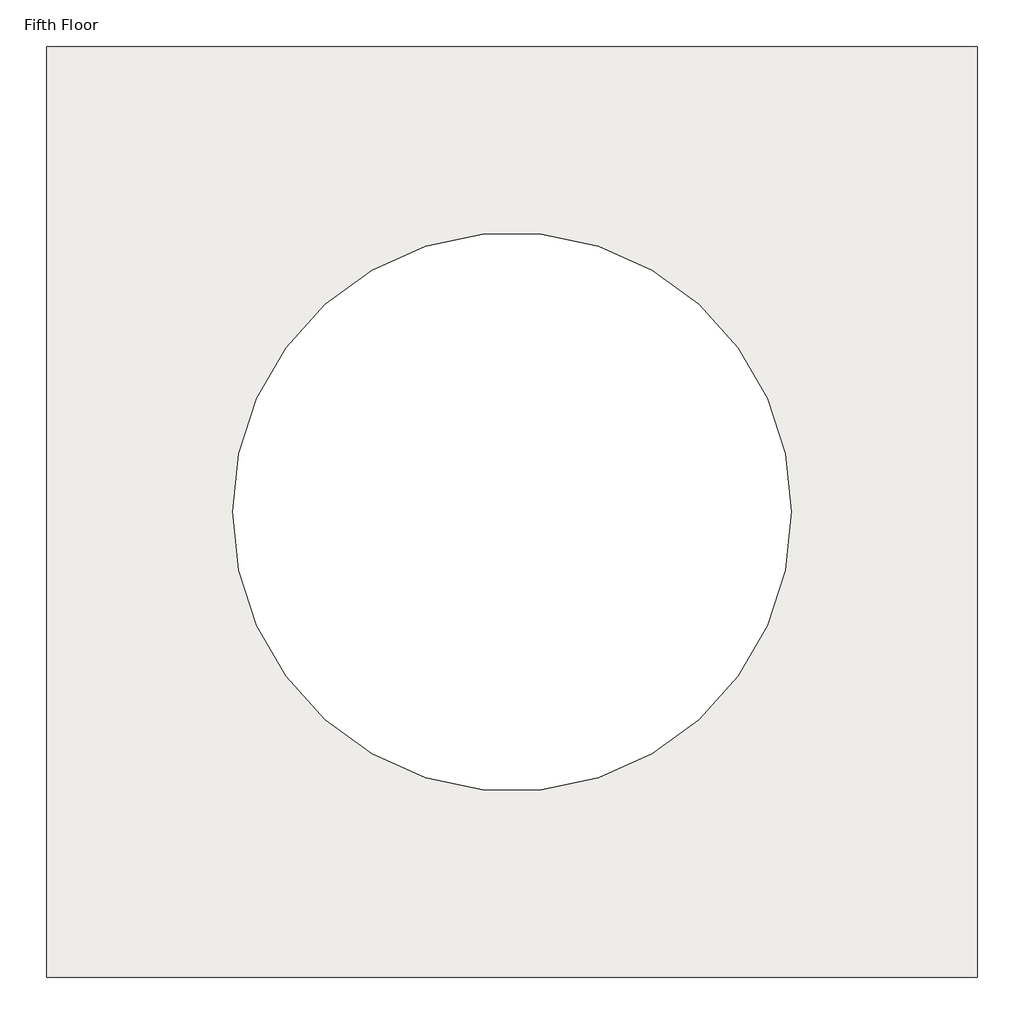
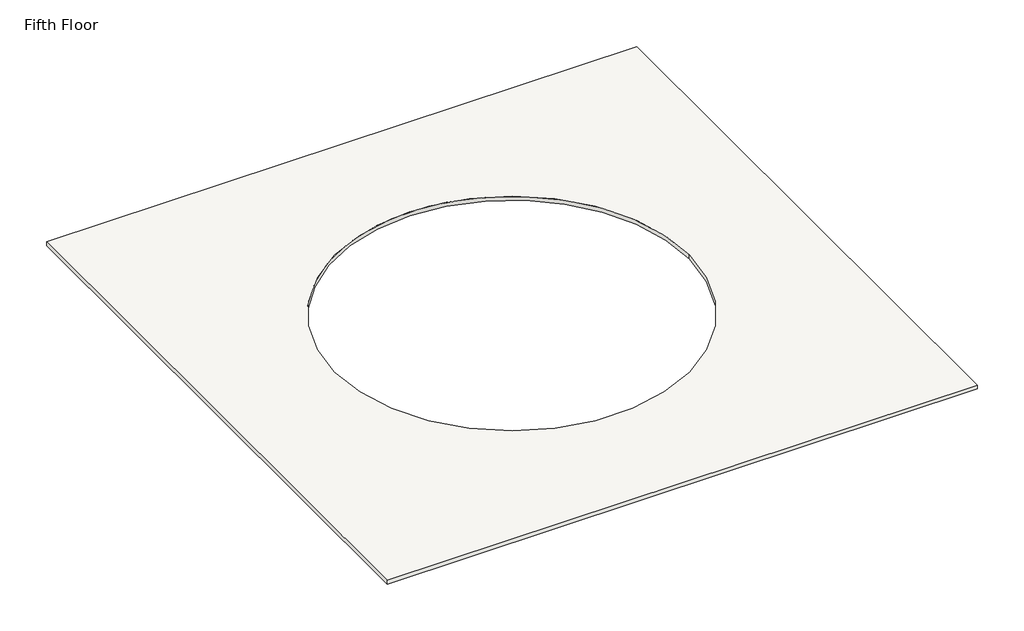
# One storey: 2 slabs.
"""IFC4 building model written with IfcOpenShell, lengths in millimetres."""

import ifcopenshell
import ifcopenshell.guid

model = None  # the IFC model being written
_history = None  # IfcOwnerHistory: only IFC2X3 demands one
_inside = {}  # id of a spatial element -> (the spatial element, [elements in it])
_under = {}  # id of a project, library or spatial element -> (it, [spatial elements below it])
_declared = {}  # id of a project -> (the project, [libraries it declares])
_typed = {}  # id of a type object -> (the type object, [elements of that type])
_made_of = {}  # id of a material, layer set ... -> (it, [elements and type objects made of it])


def new_model(schema):
    """Start an empty IFC model of exactly this schema.

    Asked for "IFC4X3", IfcOpenShell would pick the latest addendum, in which some entities
    have other attributes; the version numbers below select the first issue.
    IFC2X3 requires an IfcOwnerHistory on every rooted entity: one is made here for all.
    """
    global model, _history
    if schema == "IFC4X3":
        model = ifcopenshell.file(schema_version=(4, 3, 0, 0))
    else:
        model = ifcopenshell.file(schema=schema)
    _inside.clear()
    _under.clear()
    _declared.clear()
    _typed.clear()
    _made_of.clear()
    _history = None
    if model.schema == "IFC2X3":
        org = make("IfcOrganization", Name="unknown")
        user = make(
            "IfcPersonAndOrganization",
            ThePerson=make("IfcPerson", FamilyName="unknown"),
            TheOrganization=org,
        )
        app = make(
            "IfcApplication",
            ApplicationDeveloper=org,
            Version="unknown",
            ApplicationFullName="unknown",
            ApplicationIdentifier="unknown",
        )
        _history = make(
            "IfcOwnerHistory",
            OwningUser=user,
            OwningApplication=app,
            ChangeAction="ADDED",
            CreationDate=0,
        )
    return model


def make(cls, **values):
    """One entity of the class cls with the attributes given. An attribute that is None is left unset."""
    return model.create_entity(
        cls, **{name: value for name, value in values.items() if value is not None}
    )


def rooted(cls, **values):
    """An entity with a GlobalId (a new one), such as an element, a storey or a relation."""
    return make(cls, GlobalId=ifcopenshell.guid.new(), OwnerHistory=_history, **values)


def si_unit(unit_type, name, prefix=None):
    """IfcSIUnit, for example si_unit("LENGTHUNIT", "METRE", prefix="MILLI")."""
    return make("IfcSIUnit", UnitType=unit_type, Prefix=prefix, Name=name)


def assignment(units):
    """IfcUnitAssignment: the units of a project."""
    return None if units is None else make("IfcUnitAssignment", Units=units)


def point(xyz):
    """IfcCartesianPoint."""
    return None if xyz is None else make("IfcCartesianPoint", Coordinates=xyz)


def direction(xyz):
    """IfcDirection."""
    return None if xyz is None else make("IfcDirection", DirectionRatios=xyz)


def frame(location, z_axis=None, x_axis=None):
    """IfcAxis2Placement3D, a coordinate frame: its origin and axes. An axis left out is left unset."""
    return make(
        "IfcAxis2Placement3D",
        Location=point(location),
        Axis=direction(z_axis),
        RefDirection=direction(x_axis),
    )


def frame_2d(location, x_axis=None):
    """IfcAxis2Placement2D, a coordinate frame in the plane: its origin and x axis."""
    return make(
        "IfcAxis2Placement2D", Location=point(location), RefDirection=direction(x_axis)
    )


def origin():
    """The frame at (0, 0, 0) with its axes left unset."""
    return frame((0.0, 0.0, 0.0))


def place(relative_to, where):
    """IfcLocalPlacement: puts the frame where relative to a parent placement (None: the world)."""
    return make(
        "IfcLocalPlacement", PlacementRelTo=relative_to, RelativePlacement=where
    )


def context(
    kind, dimensions, precision=None, world=None, true_north=None, identifier=None
):
    """IfcGeometricRepresentationContext, for example the 3D "Model" context."""
    return make(
        "IfcGeometricRepresentationContext",
        ContextIdentifier=identifier,
        ContextType=kind,
        CoordinateSpaceDimension=dimensions,
        Precision=precision,
        WorldCoordinateSystem=world,
        TrueNorth=true_north,
    )


def project(units=None, contexts=None):
    """IfcProject with its units and contexts."""
    return rooted(
        "IfcProject",
        Name="project",
        RepresentationContexts=contexts,
        UnitsInContext=assignment(units),
    )


def spatial(cls, under=None, at=None, **own):
    """A site, building, storey or space (cls), placed at a placement, below another one or the project."""
    s = rooted(cls, ObjectPlacement=at, **own)
    if under is not None:
        _under.setdefault(under.id(), (under, []))[1].append(s)
    return s


def polyline(points):
    """IfcPolyline through the points."""
    return make("IfcPolyline", Points=[point(p) for p in points])


def circle_curve(where, radius):
    """IfcCircle in the frame where."""
    return make("IfcCircle", Position=where, Radius=radius)


def trimmed(basis, trim1, trim2, sense, master):
    """IfcTrimmedCurve: the piece of a basis curve between two trims."""
    return make(
        "IfcTrimmedCurve",
        BasisCurve=basis,
        Trim1=trim1,
        Trim2=trim2,
        SenseAgreement=sense,
        MasterRepresentation=master,
    )


def segment(curve, same_sense, transition):
    """IfcCompositeCurveSegment."""
    return make(
        "IfcCompositeCurveSegment",
        Transition=transition,
        SameSense=same_sense,
        ParentCurve=curve,
    )


def composite_curve(segments, self_intersect=None):
    """IfcCompositeCurve: segments joined end to end."""
    return make("IfcCompositeCurve", Segments=segments, SelfIntersect=self_intersect)


def outline(outer, holes=None, kind="AREA"):
    """IfcArbitraryClosedProfileDef: a profile drawn as a closed curve; with holes, ...WithVoids."""
    if holes is None:
        return make("IfcArbitraryClosedProfileDef", ProfileType=kind, OuterCurve=outer)
    return make(
        "IfcArbitraryProfileDefWithVoids",
        ProfileType=kind,
        OuterCurve=outer,
        InnerCurves=holes,
    )


def extrude(swept, where, along, depth):
    """IfcExtrudedAreaSolid: the profile swept, set in the frame where, extruded along a direction by depth."""
    return make(
        "IfcExtrudedAreaSolid",
        SweptArea=swept,
        Position=where,
        ExtrudedDirection=direction(along),
        Depth=depth,
    )


def shape(context_of_items, identifier, shape_type, items):
    """IfcShapeRepresentation: the items that make up one representation, for example the "Body"."""
    return make(
        "IfcShapeRepresentation",
        ContextOfItems=context_of_items,
        RepresentationIdentifier=identifier,
        RepresentationType=shape_type,
        Items=items,
    )


def made_of(thing, what):
    """Note that an element or type object is made of a material, layer set ...; save() writes the relation."""
    if what is not None:
        _made_of.setdefault(what.id(), (what, []))[1].append(thing)
    return thing


def element(
    cls,
    number,
    at=None,
    inside=None,
    cuts=None,
    type_object=None,
    material=None,
    context=None,
    identifier="Body",
    shape_type=None,
    held_by="IfcProductDefinitionShape",
    body=None,
    shapes=None,
    **own,
):
    """One element of the class cls, such as IfcWall. Its Tag is "e" and its number.

    at: its placement. inside: the storey or other place that contains it. cuts: it is an
    opening in that element (IfcRelVoidsElement). A single representation is given by context,
    identifier, shape_type and body (its items); several are given by shapes. held_by: the class
    of the entity that holds the representations. save() writes the other relations.
    """
    e = rooted(cls, Tag="e%d" % number, ObjectPlacement=at, **own)
    if body is not None:
        shapes = [shape(context, identifier, shape_type, body)]
    if shapes is not None:
        e.Representation = make(held_by, Representations=shapes)
    if inside is not None:
        _inside.setdefault(inside.id(), (inside, []))[1].append(e)
    if cuts is not None:
        rooted(
            "IfcRelVoidsElement", RelatingBuildingElement=cuts, RelatedOpeningElement=e
        )
    if type_object is not None:
        _typed.setdefault(type_object.id(), (type_object, []))[1].append(e)
    return made_of(e, material)


def aggregate(whole, parts):
    """IfcRelAggregates: a whole, such as a stair, and the parts it consists of."""
    return rooted("IfcRelAggregates", RelatingObject=whole, RelatedObjects=parts)


def save(model, path):
    """Write the relations noted so far, then the file.

    IfcRelAggregates (storeys below a building ...), IfcRelContainedInSpatialStructure (elements
    in a storey), IfcRelDefinesByType, IfcRelAssociatesMaterial and IfcRelDeclares: one each for
    every whole, place, type object, material and project.
    """
    for whole, parts in _under.values():
        aggregate(whole, parts)
    for where, things in _inside.values():
        rooted(
            "IfcRelContainedInSpatialStructure",
            RelatedElements=things,
            RelatingStructure=where,
        )
    for kind, things in _typed.values():
        rooted("IfcRelDefinesByType", RelatedObjects=things, RelatingType=kind)
    for what, things in _made_of.values():
        rooted("IfcRelAssociatesMaterial", RelatedObjects=things, RelatingMaterial=what)
    for by, libraries in _declared.values():
        rooted("IfcRelDeclares", RelatingContext=by, RelatedDefinitions=libraries)
    model.write(path)


model = new_model("IFC4")

# Units and contexts
model_context = context("Model", 3, world=origin())
ifc_project = project(units=[si_unit("LENGTHUNIT", "METRE", prefix="MILLI")], contexts=[model_context])

# Site, building, storey
site = spatial("IfcSite", under=ifc_project)
building = spatial("IfcBuilding", under=site)
storey = spatial("IfcBuildingStorey", under=building, Name="Fifth Floor", Elevation=12192.0)

# Slabs
placement = place(None, origin())
element("IfcSlab", 1, ObjectType="LW Concrete on Metal Deck", at=placement, inside=storey, context=model_context, shape_type="SweptSolid", body=[
    extrude(outline(polyline([(5148.8943843, 6934.0139224), (5148.8943843, -8305.9860776), (-10091.1056157, -8305.9860776), (-10091.1056157, 6934.0139224), (5148.8943843, 6934.0139224)]), holes=[composite_curve([segment(trimmed(circle_curve(frame_2d((-2471.1056157, -685.9860776)), 4572.0), [point((2100.8943843, -685.9860776))], [point((-7043.1056157, -685.9860776))], True, "CARTESIAN"), True, "CONTINUOUS"), segment(trimmed(circle_curve(frame_2d((-2471.1056157, -685.9860776)), 4572.0), [point((-7043.1056157, -685.9860776))], [point((2100.8943843, -685.9860776))], True, "CARTESIAN"), True, "CONTINUOUS")], self_intersect=False)]), frame((0.0, 0.0, 12087.225), z_axis=(0.0, 0.0, 1.0), x_axis=(1.0, 0.0, 0.0)), (0.0, 0.0, 1.0), 104.775),
])
element("IfcSlab", 2, ObjectType="LW Concrete on Metal Deck", at=placement, inside=storey, context=model_context, shape_type="SweptSolid", body=[
    extrude(outline(polyline([(5148.8943843, 6934.0139224), (5148.8943843, -8305.9860776), (-10091.1056157, -8305.9860776), (-10091.1056157, 6934.0139224), (5148.8943843, 6934.0139224)]), holes=[composite_curve([segment(trimmed(circle_curve(frame_2d((-2471.1056157, -685.9860776)), 4572.0), [point((2100.8943843, -685.9860776))], [point((-7043.1056157, -685.9860776))], True, "CARTESIAN"), True, "CONTINUOUS"), segment(trimmed(circle_curve(frame_2d((-2471.1056157, -685.9860776)), 4572.0), [point((-7043.1056157, -685.9860776))], [point((2100.8943843, -685.9860776))], True, "CARTESIAN"), True, "CONTINUOUS")], self_intersect=False)]), frame((0.0, 0.0, 12087.225), z_axis=(0.0, 0.0, 1.0), x_axis=(1.0, 0.0, 0.0)), (0.0, 0.0, 1.0), 104.775),
])

save(model, "model.ifc")
